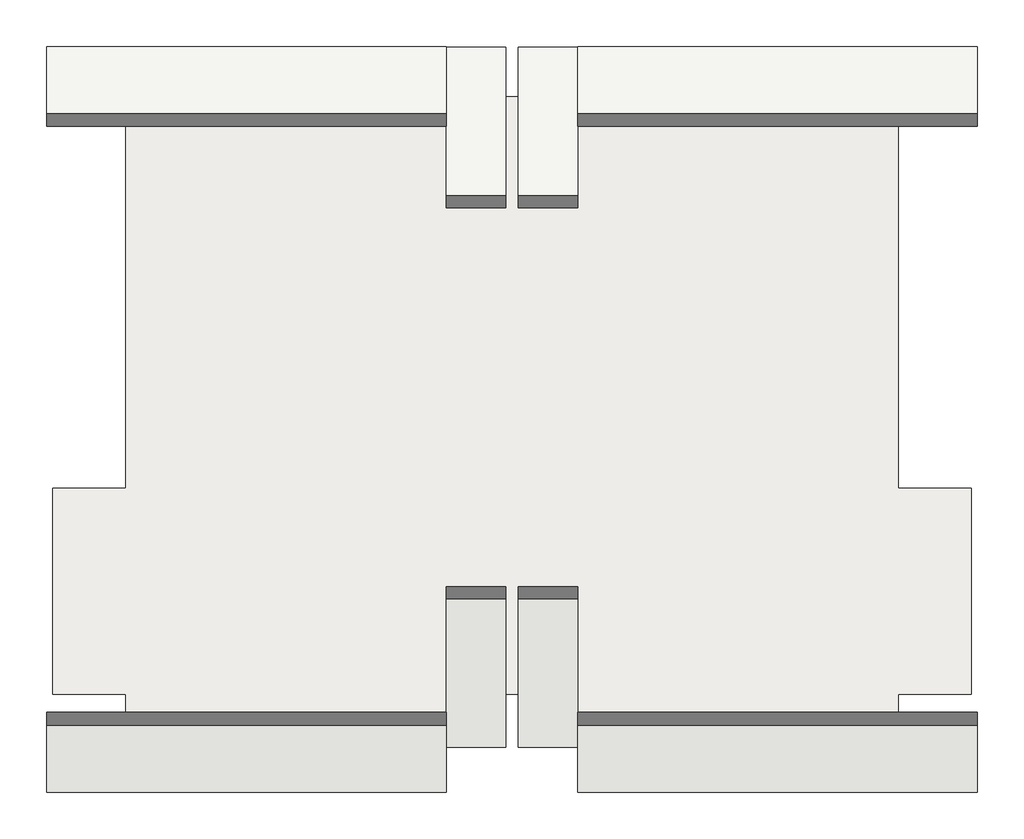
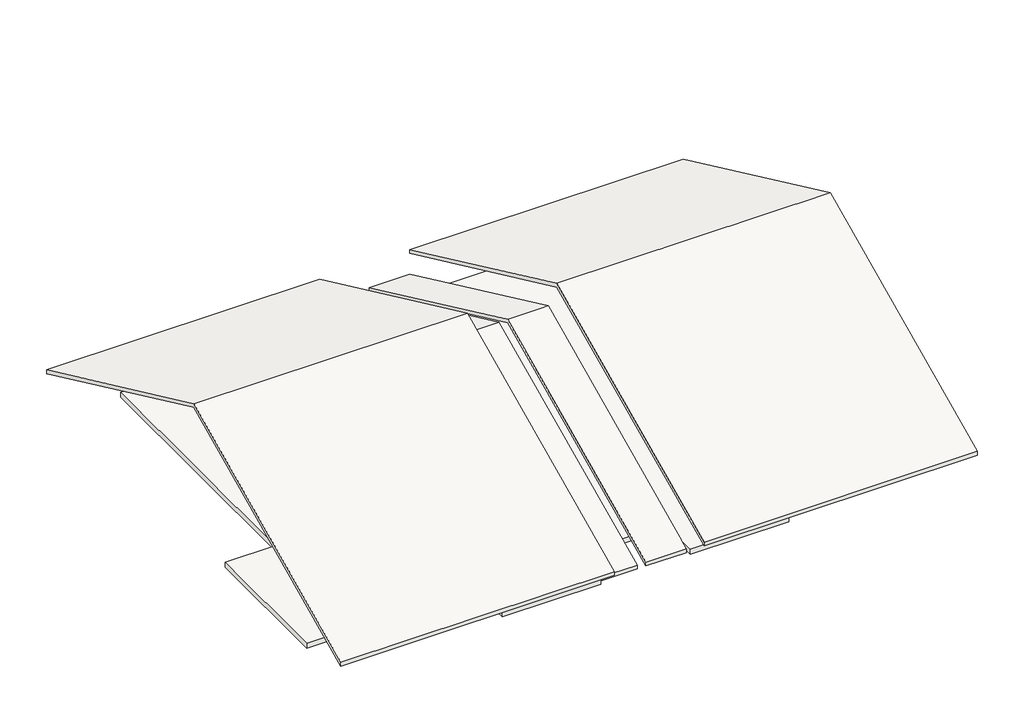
# One storey: 4 roofs, 1 slab.
"""IFC4 building model written with IfcOpenShell, lengths in millimetres."""

from ifc_helpers import new_model, si_unit, frame, origin, place, context, project, spatial, polyline, outline, extrude, element, save

model = new_model("IFC4")

# Units and contexts
model_context = context("Model", 3, world=origin())
ifc_project = project(units=[si_unit("LENGTHUNIT", "METRE", prefix="MILLI")], contexts=[model_context])

# Site, building, storey
site = spatial("IfcSite", under=ifc_project)
building = spatial("IfcBuilding", under=site)
storey = spatial("IfcBuildingStorey", under=building, Name="标高 3", Elevation=7650.0)

# Roofs
placement = place(None, origin())
element("IfcRoof", 1, ObjectType="常规 - 100mm", at=placement, inside=storey, context=model_context, shape_type="SweptSolid", body=[
    extrude(outline(polyline([(138.7732284, 8256.53101), (7188.7732284, 11544.0), (14238.7732284, 8256.53101), (14238.7732284, 8146.1932181), (7188.7732284, 11433.6622081), (138.7732284, 8146.1932181), (138.7732284, 8256.53101)])), frame((-7684.0293904, 0.0, 0.0), z_axis=(1.0, 0.0, 0.0), x_axis=(0.0, 1.0, 0.0)), (0.0, 0.0, 1.0), 7560.0),
])
element("IfcRoof", 2, ObjectType="常规 - 100mm", at=placement, inside=storey, context=model_context, shape_type="SweptSolid", body=[
    extrude(outline(polyline([(988.7732284, 7545.043303), (7608.7732284, 10632.0), (14228.7732284, 7545.043303), (14228.7732284, 7434.7055111), (7608.7732284, 10521.6622081), (988.7732284, 7434.7055111), (988.7732284, 7545.043303)])), frame((-124.0293904, 0.0, 0.0), z_axis=(1.0, 0.0, 0.0), x_axis=(0.0, 1.0, 0.0)), (0.0, 0.0, 1.0), 1120.0),
])
element("IfcRoof", 3, ObjectType="常规 - 100mm", at=placement, inside=storey, context=model_context, shape_type="SweptSolid", body=[
    extrude(outline(polyline([(138.7732284, 8256.53101), (7188.7732284, 11544.0), (14238.7732284, 8256.53101), (14238.7732284, 8146.1932181), (7188.7732284, 11433.6622081), (138.7732284, 8146.1932181), (138.7732284, 8256.53101)])), frame((2355.9706096, 0.0, 0.0), z_axis=(1.0, 0.0, 0.0), x_axis=(0.0, 1.0, 0.0)), (0.0, 0.0, 1.0), 7560.0),
])
element("IfcRoof", 4, ObjectType="常规 - 100mm", at=placement, inside=storey, context=model_context, shape_type="SweptSolid", body=[
    extrude(outline(polyline([(988.7732284, 7545.043303), (7608.7732284, 10632.0), (14228.7732284, 7545.043303), (14228.7732284, 7434.7055111), (7608.7732284, 10521.6622081), (988.7732284, 7434.7055111), (988.7732284, 7545.043303)])), frame((1235.9706096, 0.0, 0.0), z_axis=(1.0, 0.0, 0.0), x_axis=(0.0, 1.0, 0.0)), (0.0, 0.0, 1.0), 1120.0),
])

# Slab
element("IfcSlab", 5, ObjectType="常规 - 150mm", at=placement, inside=storey, context=model_context, shape_type="SweptSolid", body=[
    extrude(outline(polyline([(1115.9706096, 13288.7732284), (8415.9706096, 13288.7732284), (8415.9706096, 5888.7732284), (9795.9706096, 5888.7732284), (9795.9706096, 1988.7732284), (8415.9706096, 1988.7732284), (8415.9706096, 1138.7732284), (5075.9706096, 1138.7732284), (5075.9706096, 788.7732284), (2355.9706096, 788.7732284), (2355.9706096, 1988.7732284), (1115.9706096, 1988.7732284), (-124.0293904, 1988.7732284), (-124.0293904, 788.7732284), (-2844.0293904, 788.7732284), (-2844.0293904, 1138.7732284), (-6184.0293904, 1138.7732284), (-6184.0293904, 1988.7732284), (-7564.0293904, 1988.7732284), (-7564.0293904, 5888.7732284), (-6184.0293904, 5888.7732284), (-6184.0293904, 13288.7732284), (1115.9706096, 13288.7732284)])), frame((0.0, 0.0, 7500.0), z_axis=(0.0, 0.0, 1.0), x_axis=(1.0, 0.0, 0.0)), (0.0, 0.0, 1.0), 150.0),
])

save(model, "model.ifc")
